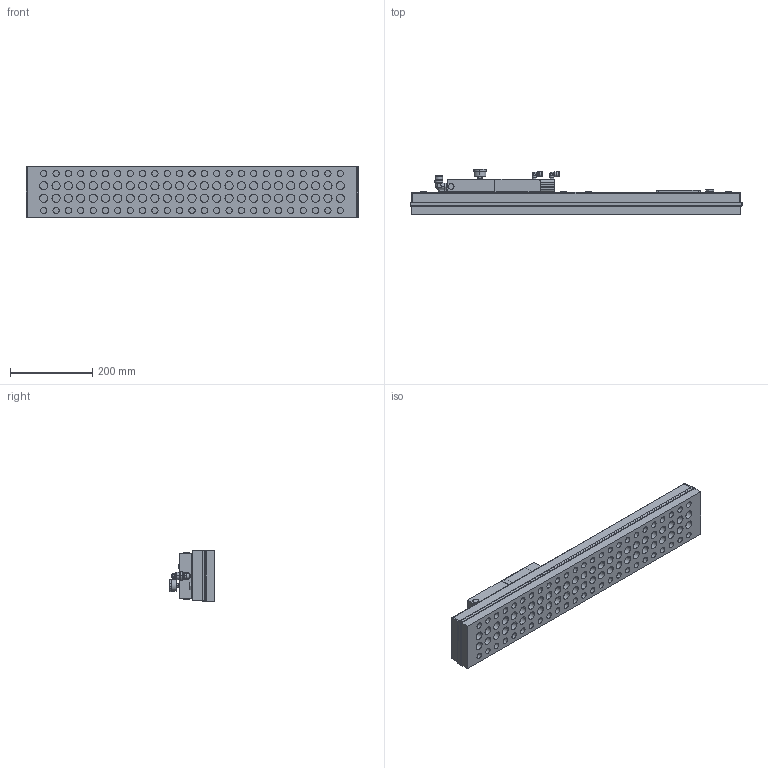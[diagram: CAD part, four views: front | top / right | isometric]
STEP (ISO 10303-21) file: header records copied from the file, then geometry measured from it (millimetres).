
FILE_DESCRIPTION (( 'STEP AP214' ), '1' );
FILE_NAME ('3-9-15207.STEP', '2012-09-03T12:10:50', ( 'cad' ), ( 'Microsoft' ), 'SwSTEP 2.0', 'SolidWorks 2012', '' );
FILE_SCHEMA (( 'AUTOMOTIVE_DESIGN' ));
Length unit declared in the file: millimetre
Products named in the file (1): 3-9-15207
Bounding box: 806 x 111.5 x 126 mm (x, y, z)
Volume: 5604063.7 mm3; surface area: 562422.4 mm2
Topology: 1 solids, 1 shells, 1070 faces, 2505 edges, 1582 vertices
Faces by surface type: plane 542, cylinder 423, cone 92, bspline 8, sphere 5
Entity records: 38830 total; most frequent: CARTESIAN_POINT 5964, DIRECTION 5481, ORIENTED_EDGE 5010, EDGE_CURVE 2505, AXIS2_PLACEMENT_3D 2043, VERTEX_POINT 1582, VECTOR 1395, LINE 1395
